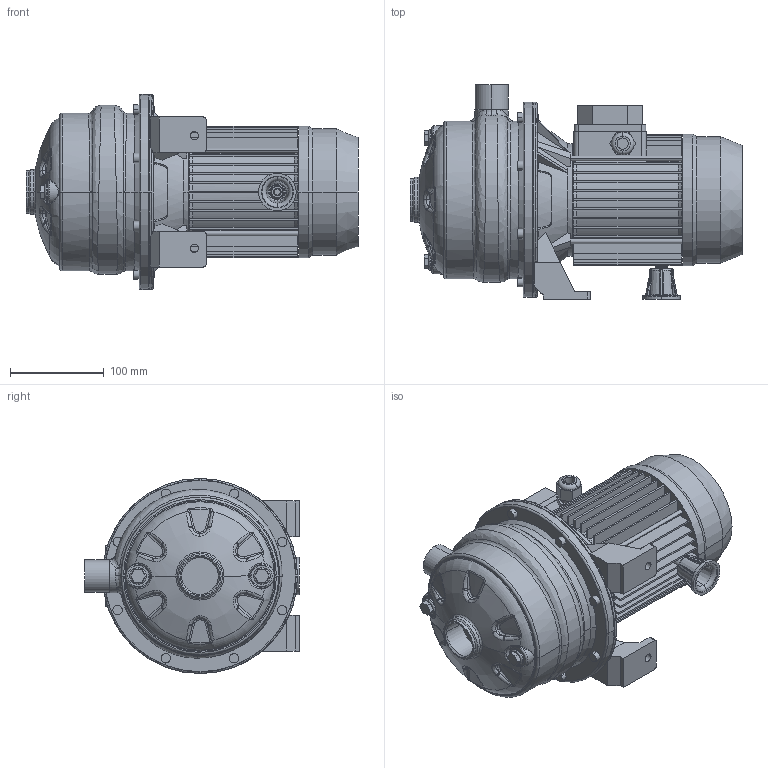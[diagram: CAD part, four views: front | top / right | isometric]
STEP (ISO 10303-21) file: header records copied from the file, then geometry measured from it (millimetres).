
FILE_DESCRIPTION((''),'2;1');
FILE_NAME('2CDX_70_10_IE2_ASM','2011-06-30T',('Utente'),('"Ebara Pumps Europe +39.444.706811"'),'PRO/ENGINEER BY PARAMETRIC TECHNOLOGY CORPORATION, 2009360','PRO/ENGINEER BY PARAMETRIC TECHNOLOGY CORPORATION, 2009360','');
FILE_SCHEMA(('AUTOMOTIVE_DESIGN { 1 0 10303 214 1 1 1 1 }'));
Length unit declared in the file: millimetre
Products named in the file (5): MEC_71X90_IE2; 80545; 251420688; 72012; 2CDX_70_10_IE2_ASM
Assembly tree (4 placements, depth 2):
  2CDX_70_10_IE2_ASM
    MEC_71X90_IE2
    80545
    251420688
    72012
Bounding box: 354 x 229 x 208 mm (x, y, z)
Volume: 3931122 mm3; surface area: 543172.3 mm2
Topology: 4 solids, 6 shells, 1021 faces, 2433 edges, 1468 vertices
Faces by surface type: plane 407, bspline 210, cylinder 198, cone 126, torus 78, sphere 2
Entity records: 50905 total; most frequent: CARTESIAN_POINT 19832, ORIENTED_EDGE 4866, DIRECTION 4359, PRESENTATION_STYLE_ASSIGNMENT 2437, STYLED_ITEM 2437, CURVE_STYLE 2433, EDGE_CURVE 2433, AXIS2_PLACEMENT_3D 1743
